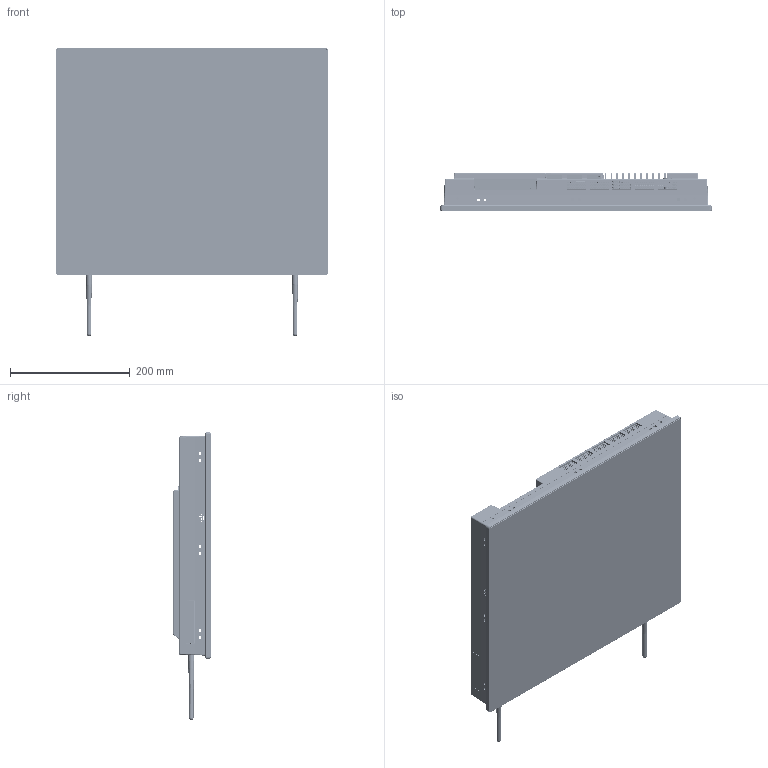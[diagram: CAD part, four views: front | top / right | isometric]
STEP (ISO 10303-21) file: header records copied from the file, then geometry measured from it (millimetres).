
FILE_DESCRIPTION (( 'STEP AP214' ), '1' );
FILE_NAME ('PPC-3190-RE4BE.STEP', '2019-01-07T02:01:13', ( '' ), ( '' ), 'SwSTEP 2.0', 'SolidWorks 2016', '' );
FILE_SCHEMA (( 'AUTOMOTIVE_DESIGN' ));
Length unit declared in the file: millimetre
Products named in the file (29): Front Bezel Hole Shelving new_蕼偞; Antenna-Base_蕼偞; ASSM  PCB   PPC-3190_蕼偞; bracket for thermal-3150_蕼偞; M2 Thermal BKT for PPC-3150_蕼偞; Antenna-R-3170_蕼偞; ASS Front Bezel for PPC-6191C_蕼偞; 968AA00239 19‘电容屏 AMT_預設; VASA_蕼偞; realcover-ppc-3190_蕼偞; rubber ppc-6191C_蕼偞; Mask-6191C for PPC-3190_蕼偞; Antenna-L-3170_蕼偞; PPC-3190-RE4BE; HEATSINK-PPC3150_蕼偞; 翞翐 M3-L 25_蕼偞; PCM-8211-1213_蕼偞; ironnet-1_蕼偞; MiniSATA导热BKT_預設; BRACKET-EXP CARD-3170_蕼偞; real cover  assy  PPC-3190_蕼偞; ADD-ON_PCI-E_Card_蕼偞; WIFI导热BKT_預設; ASSM  rear Cover  PPC-3190_蕼偞; Antenna_蕼偞; PPC-3170 bracket IO_蕼偞; 1-pci-bkt; BRACKET-HDD-PPC3150_蕼偞; side Door-3190_蕼偞
Assembly tree (30 placements, depth 5):
  PPC-3190-RE4BE
    ASS Front Bezel for PPC-6191C_蕼偞
      rubber ppc-6191C_蕼偞
      968AA00239 19‘电容屏 AMT_預設
      Mask-6191C for PPC-3190_蕼偞
      Front Bezel Hole Shelving new_蕼偞
    ASSM  rear Cover  PPC-3190_蕼偞
      side Door-3190_蕼偞
      ASSM  PCB   PPC-3190_蕼偞
        VASA_蕼偞
          BRACKET-HDD-PPC3150_蕼偞
          MiniSATA导热BKT_預設
          WIFI导热BKT_預設
          M2 Thermal BKT for PPC-3150_蕼偞
        BRACKET-EXP CARD-3170_蕼偞
        PPC-3170 bracket IO_蕼偞
        ADD-ON_PCI-E_Card_蕼偞
          1-pci-bkt
        翞翐 M3-L 25_蕼偞
        PCM-8211-1213_蕼偞
        HEATSINK-PPC3150_蕼偞
      Antenna-R-3170_蕼偞
        Antenna_蕼偞
        Antenna-Base_蕼偞
      Antenna-L-3170_蕼偞
        Antenna_蕼偞
        Antenna-Base_蕼偞
    real cover  assy  PPC-3190_蕼偞
      realcover-ppc-3190_蕼偞
      ironnet-1_蕼偞
      bracket for thermal-3150_蕼偞
Bounding box: 454 x 62.85 x 481.38 mm (x, y, z)
Volume: 1575517.7 mm3; surface area: 1203816.7 mm2
Topology: 21 solids, 212 shells, 6692 faces, 20855 edges, 14186 vertices
Faces by surface type: plane 3851, cylinder 2290, bspline 269, cone 255, torus 24, sphere 3
Entity records: 279154 total; most frequent: CARTESIAN_POINT 73068, ORIENTED_EDGE 37378, DIRECTION 35037, EDGE_CURVE 20725, VERTEX_POINT 14116, LINE 13967, VECTOR 13967, AXIS2_PLACEMENT_3D 10535
